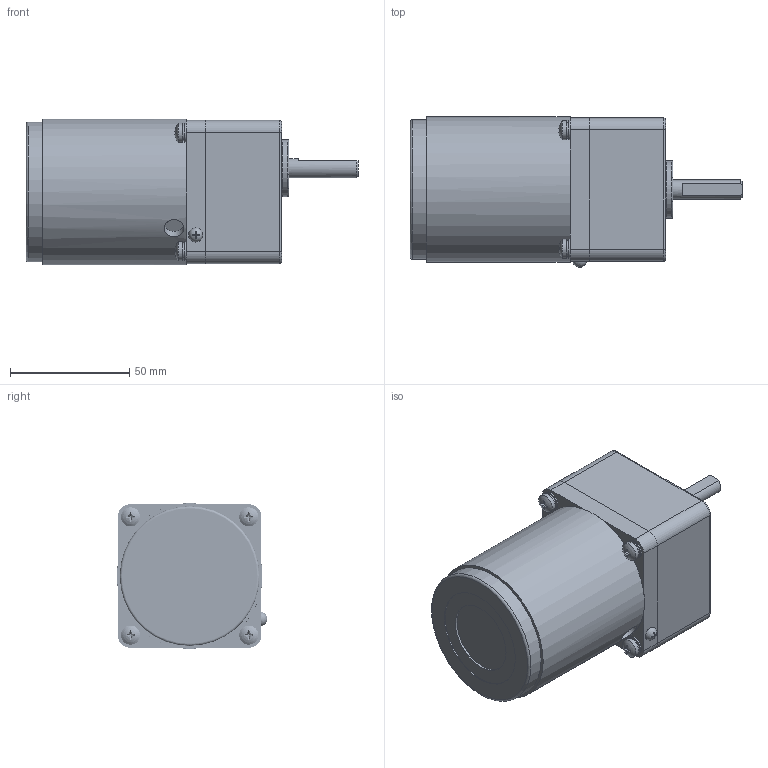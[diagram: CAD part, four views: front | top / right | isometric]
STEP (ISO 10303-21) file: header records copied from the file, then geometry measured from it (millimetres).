
FILE_DESCRIPTION(/* description */ (''),/* implementation_level */ '2;1');
FILE_NAME(/* name */ '60矮箱L-6W普通.stp',/* time_stamp */ '2022-10-31T08:15:46+08:00',/* author */ (''),/* organization */ (''),/* preprocessor_version */ 'ST-DEVELOPER v16.7',/* originating_system */ 'SIEMENS PLM Software NX 1899',/* authorisation */ '');
FILE_SCHEMA (('AP203_CONFIGURATION_CONTROLLED_3D_DESIGN_OF_MECHANICAL_PARTS_AND_ASSEMBLIES_MIM_LF { 1 0 10303 403 2 1 2}'));
Products named in the file (1): yf186188FEB6lbwu
Bounding box: 139 x 62.99 x 61 mm (x, y, z)
Volume: 338251.7 mm3; surface area: 43107.1 mm2
Topology: 14 solids, 15 shells, 280 faces, 690 edges, 462 vertices
Faces by surface type: plane 106, bspline 88, cylinder 64, torus 11, sphere 6, cone 5
Full cylindrical faces by diameter (mm): 3 x1, 3.838 x4, 4 x4, 4.3 x4, 6 x5, 8 x9, 8.2 x1, 24 x1, 30 x1, 42 x1, 52.6 x1, 57 x2, 58.5 x1, 61 x1
Entity records: 60228 total; most frequent: CARTESIAN_POINT 54111, ORIENTED_EDGE 1206, DIRECTION 958, EDGE_CURVE 603, VERTEX_POINT 424, AXIS2_PLACEMENT_3D 411, EDGE_LOOP 375, ADVANCED_FACE 280
